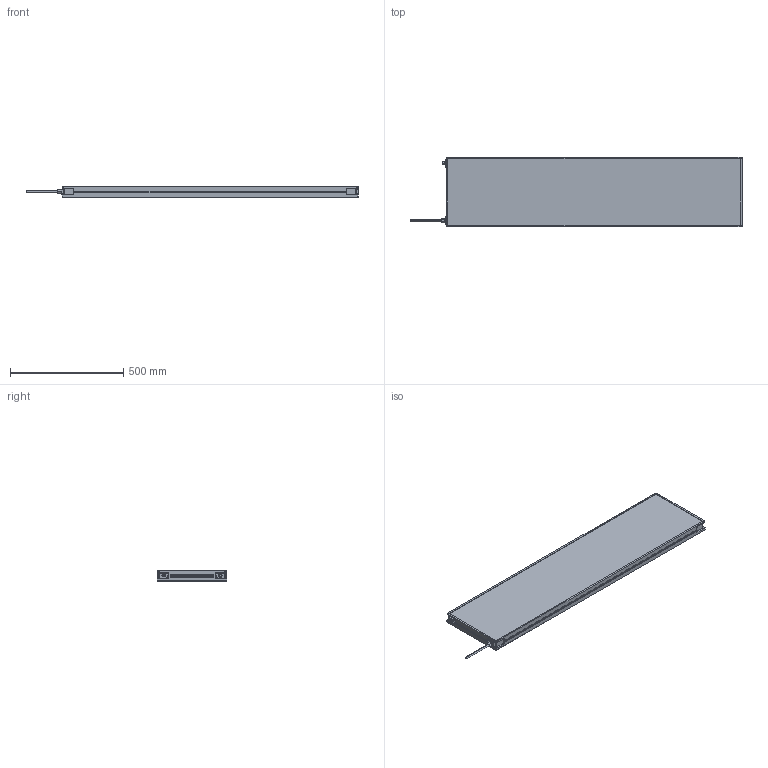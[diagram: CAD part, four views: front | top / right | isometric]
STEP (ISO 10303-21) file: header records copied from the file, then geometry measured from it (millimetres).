
FILE_DESCRIPTION (( 'STEP AP214' ), '1' );
FILE_NAME ('MBACK-xxxx-xxx-M1A2_CLIENT300x1300.STEP', '2022-04-01T11:32:23', ( '' ), ( '' ), 'SwSTEP 2.0', 'SolidWorks 2020', '' );
FILE_SCHEMA (( 'AUTOMOTIVE_DESIGN' ));
Length unit declared in the file: millimetre
Products named in the file (1): MBACK-xxxx-xxx-M1A2_CLIENT300x1300
Bounding box: 1467.4 x 308 x 45.5 mm (x, y, z)
Volume: 16740597.2 mm3; surface area: 1026321.2 mm2
Topology: 1 solids, 1 shells, 470 faces, 1210 edges, 804 vertices
Faces by surface type: plane 265, cylinder 117, bspline 80, cone 8
Entity records: 18046 total; most frequent: CARTESIAN_POINT 6837, ORIENTED_EDGE 2420, DIRECTION 2082, EDGE_CURVE 1210, VERTEX_POINT 804, VECTOR 800, LINE 800, AXIS2_PLACEMENT_3D 641
